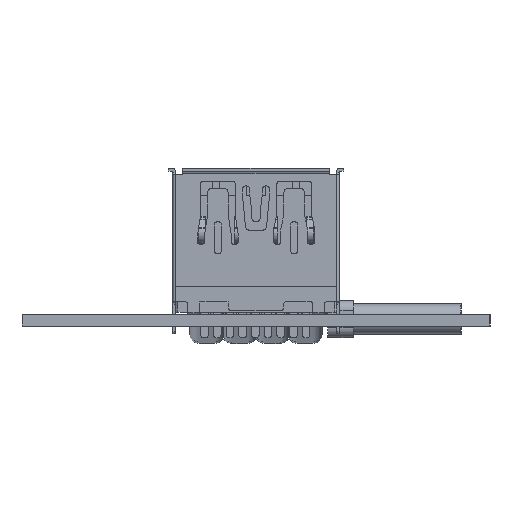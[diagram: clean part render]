
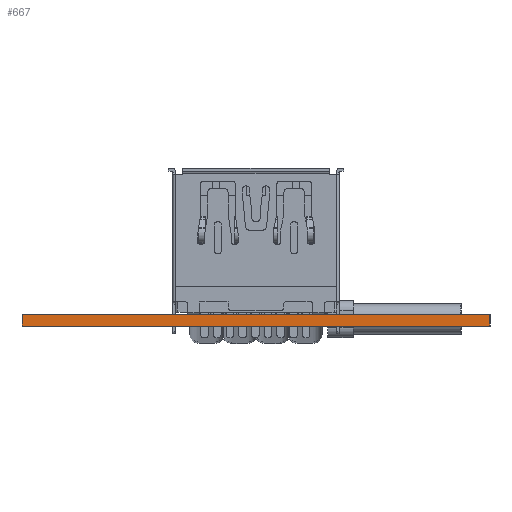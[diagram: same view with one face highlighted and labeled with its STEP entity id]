
A CAD part, front view. The second image highlights one B-rep face of the part: STEP entity #667.
In plain terms, the highlighted planar face has unit normal (0, -1, 0).
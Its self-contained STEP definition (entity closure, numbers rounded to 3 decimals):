
#69 = EDGE_CURVE('',#70,#72,#74,.T.);
#70 = VERTEX_POINT('',#71);
#71 = CARTESIAN_POINT('',(-22.007,64.807,0.));
#72 = VERTEX_POINT('',#73);
#73 = CARTESIAN_POINT('',(-22.007,64.807,0.9));
#74 = LINE('',#75,#76);
#75 = CARTESIAN_POINT('',(-22.007,64.807,0.));
#76 = VECTOR('',#77,1.);
#77 = DIRECTION('',(0.,0.,1.));
#642 = VERTEX_POINT('',#643);
#643 = CARTESIAN_POINT('',(14.806,64.794,0.9));
#649 = EDGE_CURVE('',#650,#642,#652,.T.);
#650 = VERTEX_POINT('',#651);
#651 = CARTESIAN_POINT('',(14.806,64.794,0.));
#652 = LINE('',#653,#654);
#653 = CARTESIAN_POINT('',(14.806,64.794,0.));
#654 = VECTOR('',#655,1.);
#655 = DIRECTION('',(0.,0.,1.));
#667 = ADVANCED_FACE('',(#668),#684,.T.);
#668 = FACE_BOUND('',#669,.T.);
#669 = EDGE_LOOP('',(#670,#671,#677,#678));
#670 = ORIENTED_EDGE('',*,*,#649,.T.);
#671 = ORIENTED_EDGE('',*,*,#672,.T.);
#672 = EDGE_CURVE('',#642,#72,#673,.T.);
#673 = LINE('',#674,#675);
#674 = CARTESIAN_POINT('',(14.806,64.794,0.9));
#675 = VECTOR('',#676,1.);
#676 = DIRECTION('',(-1.,0.,0.));
#677 = ORIENTED_EDGE('',*,*,#69,.F.);
#678 = ORIENTED_EDGE('',*,*,#679,.F.);
#679 = EDGE_CURVE('',#650,#70,#680,.T.);
#680 = LINE('',#681,#682);
#681 = CARTESIAN_POINT('',(14.806,64.794,0.));
#682 = VECTOR('',#683,1.);
#683 = DIRECTION('',(-1.,0.,0.));
#684 = PLANE('',#685);
#685 = AXIS2_PLACEMENT_3D('',#686,#687,#688);
#686 = CARTESIAN_POINT('',(14.806,64.794,0.));
#687 = DIRECTION('',(0.,-1.,0.));
#688 = DIRECTION('',(-1.,0.,0.));
